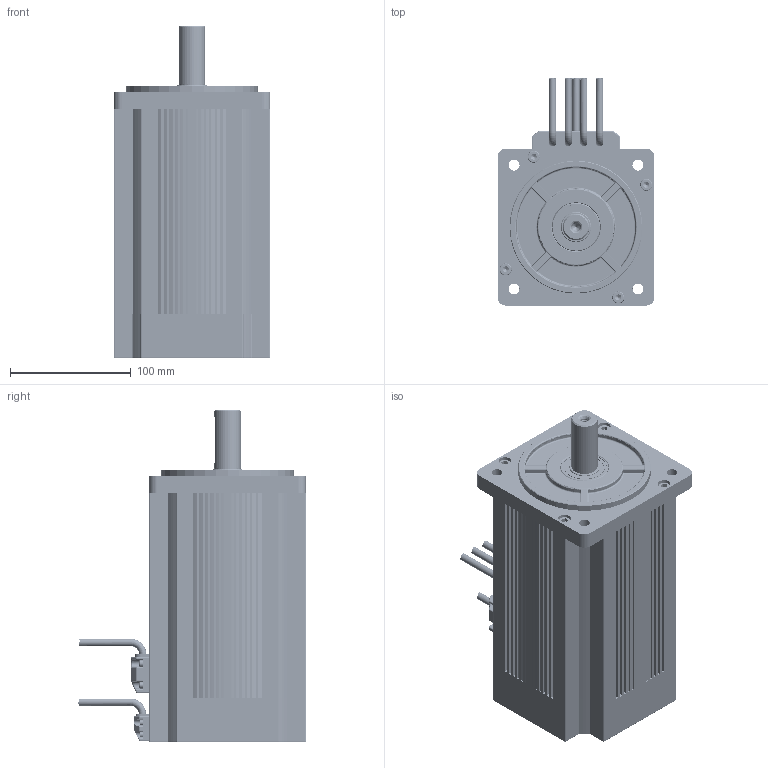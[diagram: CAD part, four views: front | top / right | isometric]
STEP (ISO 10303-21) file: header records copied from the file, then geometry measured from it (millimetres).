
FILE_DESCRIPTION (( 'STEP AP203' ), '1' );
FILE_NAME ('130L120-N-竘盄碟-4盄.STEP', '2022-08-18T01:28:09', ( '' ), ( '' ), 'SwSTEP 2.0', 'SolidWorks 2018', '' );
FILE_SCHEMA (( 'CONFIG_CONTROL_DESIGN' ));
Products named in the file (1): 130L120-N-竘盄碟-4盄
Bounding box: 130 x 188.82 x 275 mm (x, y, z)
Volume: 1054696.5 mm3; surface area: 429001.9 mm2
Topology: 31 solids, 31 shells, 4657 faces, 10198 edges, 5604 vertices
Faces by surface type: cone 1947, cylinder 1609, plane 687, bspline 179, torus 177, sphere 58
Entity records: 130059 total; most frequent: CARTESIAN_POINT 27720, DIRECTION 23299, ORIENTED_EDGE 20212, EDGE_CURVE 10106, AXIS2_PLACEMENT_3D 9193, VERTEX_POINT 5598, LINE 4913, VECTOR 4913
